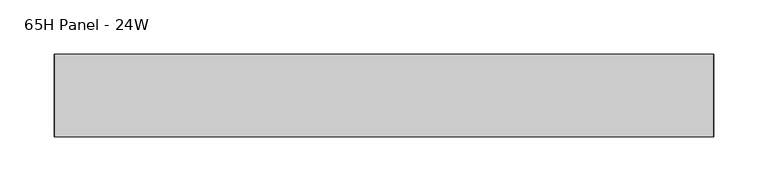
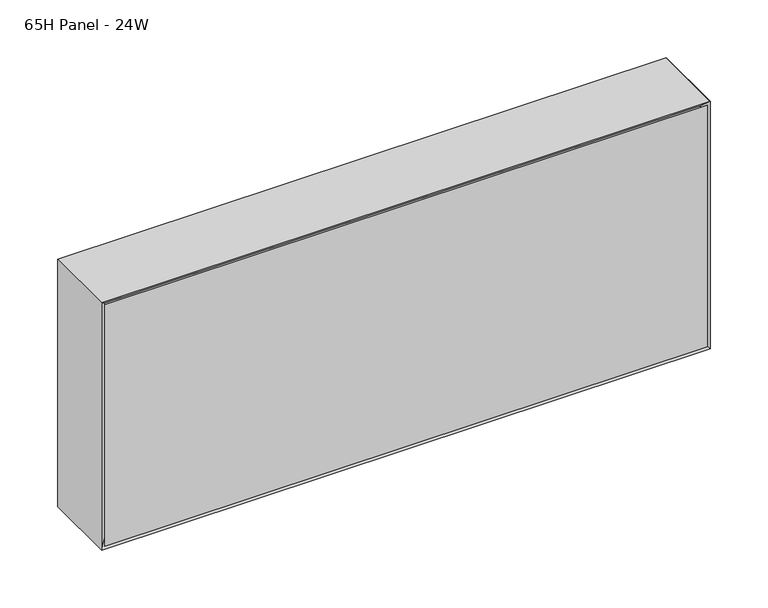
"""IFC4 building model written with IfcOpenShell, lengths in millimetres: furniture geometry, Steelcase - Montage - Frame - 10H - Enhanced Standard - Single Stack-On : 65H Panel - 24W."""

from ifc_helpers import new_model, si_unit, frame, origin, place, context, project, spatial, polyline, outline, extrude, faceted_brep, source, transform, mapped, element, save


def furniture_65h_panel_24w_a550eb89(model_context):
    return source(origin(), model_context, "Body", "SolidModel", [
        faceted_brep([(600.0750027, 31.7500194, 1912.9502415), (9.5250028, 31.7500194, 1912.9502415), (9.5250028, 31.7500194, 1670.05), (600.0750027, 31.7500194, 1670.05), (606.425, 38.1000194, 1919.3002415), (606.425, 38.1000194, 1663.7), (3.175, 38.1000194, 1663.7), (3.175, 38.1000194, 1919.3002415)], [[[0, 1, 2, 3]], [[4, 5, 6, 7]], [[4, 0, 3, 5]], [[5, 3, 2, 6]], [[6, 2, 1, 7]], [[7, 1, 0, 4]]]),
        faceted_brep([(600.0750027, -31.7500194, 1912.9502415), (600.0750027, -31.7500194, 1670.05), (9.5250028, -31.7500194, 1670.05), (9.5250028, -31.7500194, 1912.9502415), (606.425, -38.1000194, 1919.3002415), (3.175, -38.1000194, 1919.3002415), (3.175, -38.1000194, 1663.7), (606.425, -38.1000194, 1663.7)], [[[0, 1, 2, 3]], [[4, 5, 6, 7]], [[4, 7, 1, 0]], [[7, 6, 2, 1]], [[6, 5, 3, 2]], [[5, 4, 0, 3]]]),
        faceted_brep([(609.6, -38.1000015, 1660.525), (609.6, 38.1000015, 1660.525), (609.6, 38.1000015, 1922.4752415), (609.6, -38.1000106, 1922.4752414), (0.0, 38.1000015, 1660.525), (0.0, -38.1000015, 1660.525), (0.0, -38.1000015, 1922.4752415), (0.0, 38.1000015, 1922.4752415), (6.3500484, 31.749953, 1666.8750484), (603.2499879, 31.749953, 1666.8750484), (6.35, -31.749953, 1666.8750484), (603.2499879, -31.749953, 1666.8750484), (6.3500169, 31.7499846, 1916.1252245), (6.3500012, -31.7500003, 1916.125193), (603.2499879, -31.7499973, 1916.125193), (603.2499879, 31.7499885, 1916.1252293)], [[[0, 1, 2, 3]], [[4, 5, 6, 7]], [[1, 0, 5, 4]], [[1, 4, 8, 9]], [[9, 8, 10, 11]], [[5, 0, 11, 10]], [[4, 7, 12, 8]], [[6, 5, 10, 13]], [[10, 8, 12, 13]], [[9, 11, 14, 15]], [[0, 3, 14, 11]], [[2, 1, 9, 15]], [[3, 2, 15, 14]], [[7, 6, 13, 12]]]),
        faceted_brep([(609.6, -38.1000015, 1922.4752415), (0.0, -38.1000015, 1922.4752415), (6.3500484, -31.749953, 1916.125193), (603.2499516, -31.749953, 1916.125193), (6.3500484, 31.749953, 1916.125193), (603.2499516, 31.749953, 1916.125193), (0.0, 38.1000015, 1922.4752415), (609.6, 38.1000015, 1922.4752415)], [[[0, 1, 2, 3]], [[3, 2, 4, 5]], [[6, 7, 5, 4]], [[1, 0, 7, 6]], [[2, 1, 6, 4]], [[0, 3, 5, 7]]]),
        extrude(outline(polyline([(603.2499879, 31.7500016), (603.2499879, -31.7499985), (6.35, -31.7499985), (6.35, 31.7500016), (603.2499879, 31.7500016)])), frame((0.0, 0.0, 1666.8702145), z_axis=(0.0, 0.0, 1.0), x_axis=(1.0, 0.0, 0.0)), (0.0, 0.0, 1.0), 249.2549785),
    ])


if __name__ == "__main__":
    model = new_model("IFC4")
    model_context = context("Model", 3, world=origin())
    ifc_project = project(units=[si_unit("LENGTHUNIT", "METRE", prefix="MILLI")], contexts=[model_context])
    site = spatial("IfcSite", under=ifc_project)
    building = spatial("IfcBuilding", under=site)
    placement = place(None, origin())
    furniture_65h_panel_24w_shape = furniture_65h_panel_24w_a550eb89(model_context)
    element("IfcFurniture", 1, ObjectType="Steelcase - Montage - Frame - 10H - Enhanced Standard - Single Stack-On : 65H Panel - 24W", at=placement, inside=building, context=model_context, shape_type="MappedRepresentation", body=[
        mapped(furniture_65h_panel_24w_shape, transform((0.0, 0.0, 0.0), x_axis=(1.0, 0.0, 0.0), y_axis=(0.0, 1.0, 0.0), z_axis=(0.0, 0.0, 1.0))),
    ])
    save(model, "model.ifc")
